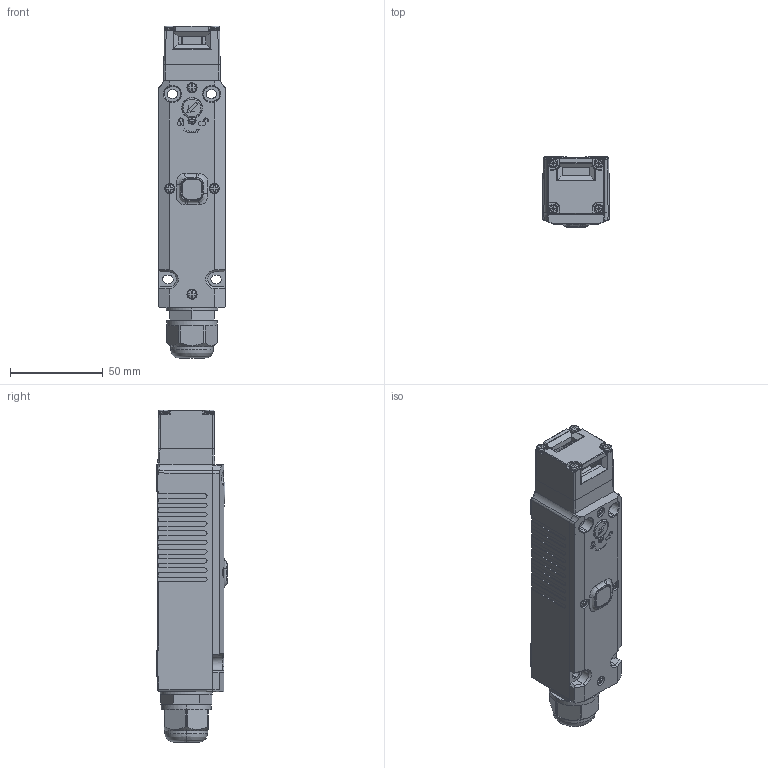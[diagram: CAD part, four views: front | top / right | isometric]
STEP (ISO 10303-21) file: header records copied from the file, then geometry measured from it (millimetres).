
FILE_DESCRIPTION(/* description */ (''),/* implementation_level */ '2;1');
FILE_NAME(/* name */ 'EPS',/* time_stamp */ '2023-05-06T14:22:47+08:00',/* author */ (''),/* organization */ (''),/* preprocessor_version */ 'ST-DEVELOPER v16.5',/* originating_system */ '',/* authorisation */ '');
FILE_SCHEMA (('CONFIG_CONTROL_DESIGN'));
Length unit declared in the file: millimetre
Products named in the file (10): Document; LED-GAI-ODM12; QIANZUO-NEW_1.stp; LS3-8.stp; LUOSI-3_1.stp; 图块 02; LS25-4.stp; KETI.stp; 图块 01; JIESUOXUANNIU.stp
Assembly tree (15 placements, depth 3):
  Document
    LED-GAI-ODM12
    QIANZUO-NEW_1.stp
    LS3-8.stp  x4
    LUOSI-3_1.stp  x4
      图块 02
    LS25-4.stp
    KETI.stp
      图块 01
    JIESUOXUANNIU.stp
Bounding box: 35.98 x 37.79 x 179.13 mm (x, y, z)
Volume: 169925.9 mm3; surface area: 55973.1 mm2
Topology: 17 solids, 37 shells, 2427 faces, 6516 edges, 4215 vertices
Faces by surface type: plane 1445, cylinder 596, bspline 386
Entity records: 78166 total; most frequent: CARTESIAN_POINT 40099, ORIENTED_EDGE 11196, EDGE_CURVE 5607, B_SPLINE_CURVE_WITH_KNOTS 4683, VERTEX_POINT 3633, EDGE_LOOP 2207, ADVANCED_FACE 2085, FACE_OUTER_BOUND 2085
